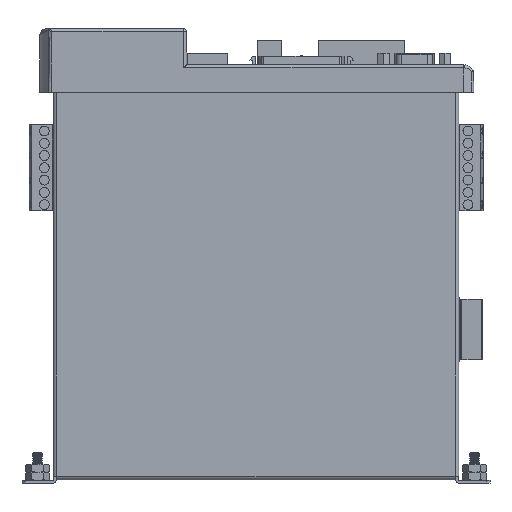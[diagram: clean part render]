
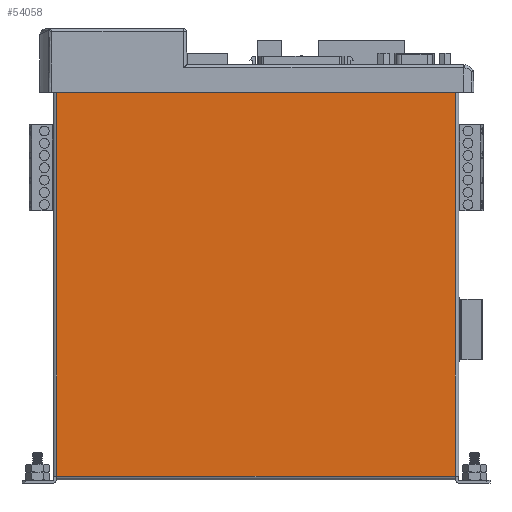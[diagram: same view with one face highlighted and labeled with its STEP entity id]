
A CAD part, left-side view. The second image highlights one B-rep face of the part: STEP entity #54058.
In plain terms, the highlighted planar face has unit normal (-1, 0, 0) as drawn and (0, -1, 0) by its records, which use the part's own axes.
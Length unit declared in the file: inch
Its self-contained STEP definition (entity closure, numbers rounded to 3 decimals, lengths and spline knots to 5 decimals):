
#6137 = AXIS2_PLACEMENT_3D ( 'NONE', #36993, #36992, #36991 ) ;
#6624 = DIRECTION ( 'NONE',  ( 1., 0., 0. ) ) ;
#6626 = CARTESIAN_POINT ( 'NONE',  ( -3.25, 0., 0.058 ) ) ;
#10080 = ORIENTED_EDGE ( 'NONE', *, *, #105789, .T. ) ;
#10081 = ORIENTED_EDGE ( 'NONE', *, *, #111212, .T. ) ;
#10082 = ORIENTED_EDGE ( 'NONE', *, *, #105886, .T. ) ;
#10083 = ORIENTED_EDGE ( 'NONE', *, *, #105914, .T. ) ;
#22311 = DIRECTION ( 'NONE',  ( 0., 0., 1. ) ) ;
#22313 = CARTESIAN_POINT ( 'NONE',  ( 3.192, 0., 6.59 ) ) ;
#22630 = DIRECTION ( 'NONE',  ( -1., 0., 0. ) ) ;
#22632 = CARTESIAN_POINT ( 'NONE',  ( -3.25, 0., 6.59 ) ) ;
#36991 = DIRECTION ( 'NONE',  ( 0., 0., -1. ) ) ;
#36992 = DIRECTION ( 'NONE',  ( 0., -1., 0. ) ) ;
#36993 = CARTESIAN_POINT ( 'NONE',  ( -3.25, 0., 6.59 ) ) ;
#36994 = PLANE ( 'NONE',  #6137 ) ;
#45419 = VECTOR ( 'NONE', #96787, 39.37008 ) ;
#45421 = LINE ( 'NONE', #96788, #45419 ) ;
#47390 = CARTESIAN_POINT ( 'NONE',  ( 3.192, 0., 0.058 ) ) ;
#47477 = CARTESIAN_POINT ( 'NONE',  ( 3.192, 0., 6.59 ) ) ;
#47488 = CARTESIAN_POINT ( 'NONE',  ( -3.192, 0., 6.59 ) ) ;
#47550 = CARTESIAN_POINT ( 'NONE',  ( -3.192, 0., 0.058 ) ) ;
#48625 = VECTOR ( 'NONE', #22630, 39.37008 ) ;
#48636 = LINE ( 'NONE', #22632, #48625 ) ;
#49339 = VECTOR ( 'NONE', #22311, 39.37008 ) ;
#49341 = LINE ( 'NONE', #22313, #49339 ) ;
#51128 = VECTOR ( 'NONE', #6624, 39.37008 ) ;
#51129 = LINE ( 'NONE', #6626, #51128 ) ;
#54058 = ADVANCED_FACE ( 'NONE', ( #77308 ), #36994, .T. ) ;
#68921 = VERTEX_POINT ( 'NONE', #47550 ) ;
#69036 = VERTEX_POINT ( 'NONE', #47488 ) ;
#69053 = VERTEX_POINT ( 'NONE', #47477 ) ;
#69213 = VERTEX_POINT ( 'NONE', #47390 ) ;
#77308 = FACE_OUTER_BOUND ( 'NONE', #108890, .T. ) ;
#96787 = DIRECTION ( 'NONE',  ( 0., 0., -1. ) ) ;
#96788 = CARTESIAN_POINT ( 'NONE',  ( -3.192, 0., 6.59 ) ) ;
#105789 = EDGE_CURVE ( 'NONE', #68921, #69213, #51129, .T. ) ;
#105886 = EDGE_CURVE ( 'NONE', #69053, #69036, #48636, .T. ) ;
#105914 = EDGE_CURVE ( 'NONE', #69213, #69053, #49341, .T. ) ;
#108890 = EDGE_LOOP ( 'NONE', ( #10083, #10082, #10081, #10080 ) ) ;
#111212 = EDGE_CURVE ( 'NONE', #69036, #68921, #45421, .T. ) ;
